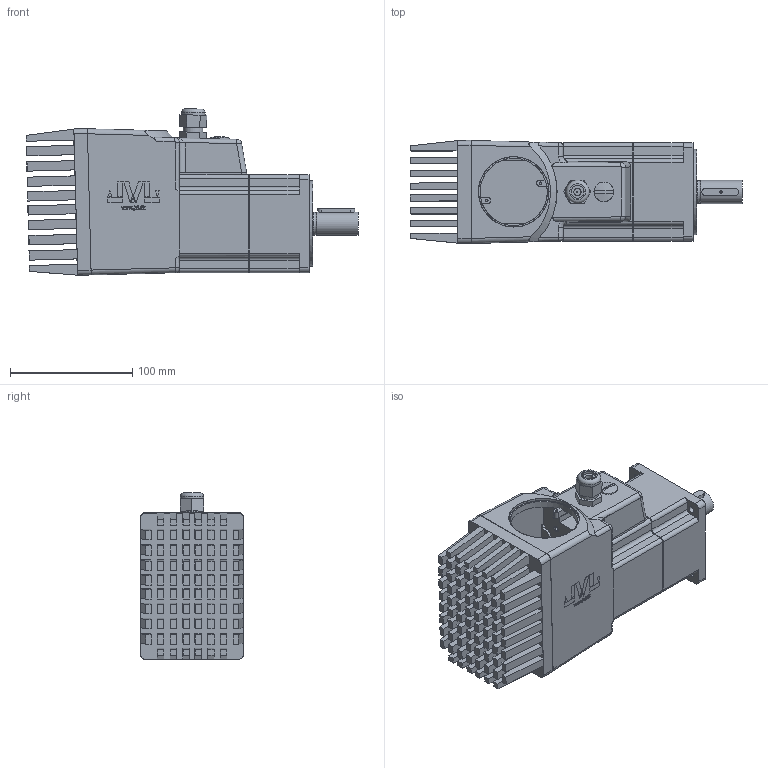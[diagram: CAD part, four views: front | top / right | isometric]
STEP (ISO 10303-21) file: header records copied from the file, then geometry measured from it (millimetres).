
FILE_DESCRIPTION(/* description */ ('Unknown','CAx-IF Rec.Pracs.---Representation and Presentation of Product Manufacturing Information (PMI)---4.0---2014-10-13','CAx-IF Rec.Pracs.---3D Tessellated Geometry---0.4---2014-09-14','2;1'),/* implementation_level */ '2;1');
FILE_NAME(/* name */ 'MAC800-D5 without fan',/* time_stamp */ '2021-06-25T12:03:00+02:00',/* author */ ('Unknown'),/* organization */ ('Unknown'),/* preprocessor_version */ 'ST-DEVELOPER v16.7',/* originating_system */ 'Solid Edge',/* authorisation */ 'Unknown');
FILE_SCHEMA (('AP242_MANAGED_MODEL_BASED_3D_ENGINEERING_MIM_LF { 1 0 10303 442 1 1 4 }'));
Length unit declared in the file: millimetre
Products named in the file (3): MAC800-D5 without fan; Mac800-D5 without fan; MM3537
Assembly tree (2 placements, depth 2):
  MAC800-D5 without fan
    Mac800-D5 without fan
    MM3537
Bounding box: 271.1 x 84.04 x 136.05 mm (x, y, z)
Volume: 830323 mm3; surface area: 244607 mm2
Topology: 4 solids, 6 shells, 1052 faces, 2652 edges, 1742 vertices
Faces by surface type: plane 847, cylinder 128, bspline 49, cone 22, torus 4, sphere 2
Full cylindrical faces by diameter (mm): 1 x2, 2 x3, 2.5 x4, 3.4 x4, 5.4 x4, 6 x1, 8 x4, 10.5 x2, 12 x1, 16 x2, 19 x3, 55 x1, 57.5 x1, 63 x1, 69 x1, 70 x1
Entity records: 36836 total; most frequent: CARTESIAN_POINT 7368, ORIENTED_EDGE 5158, DIRECTION 4804, EDGE_CURVE 2580, LINE 2128, VECTOR 2128, VERTEX_POINT 1720, AXIS2_PLACEMENT_3D 1338
